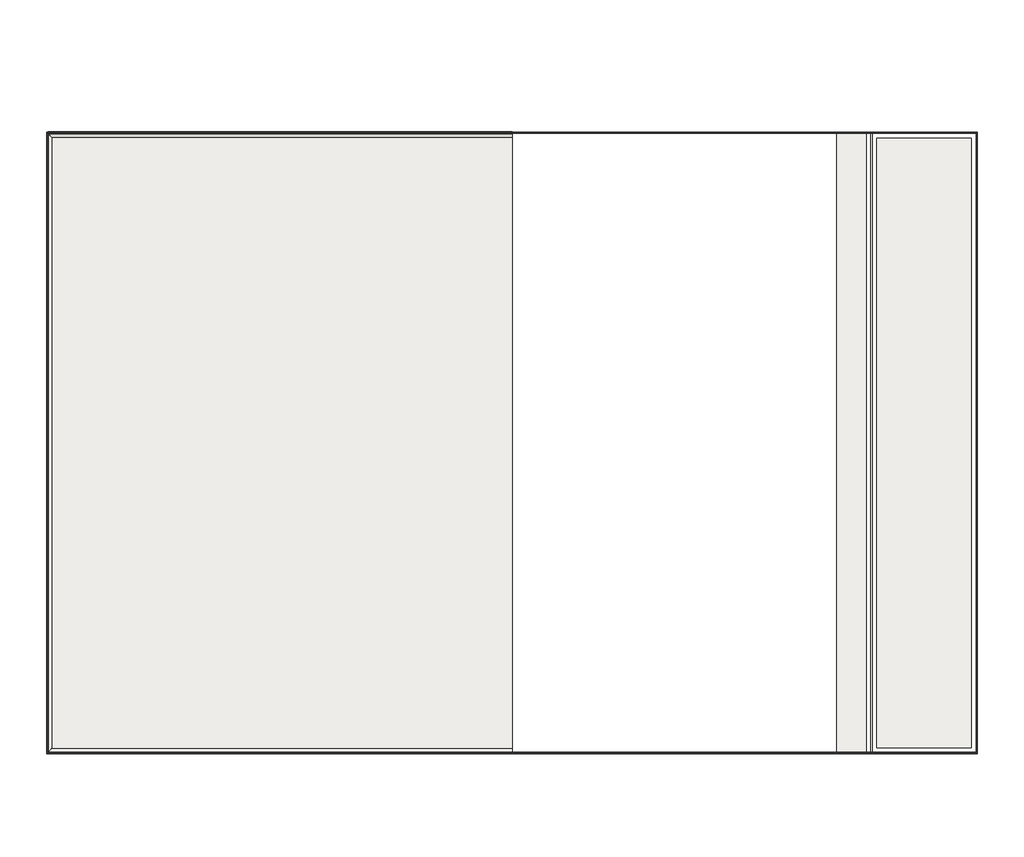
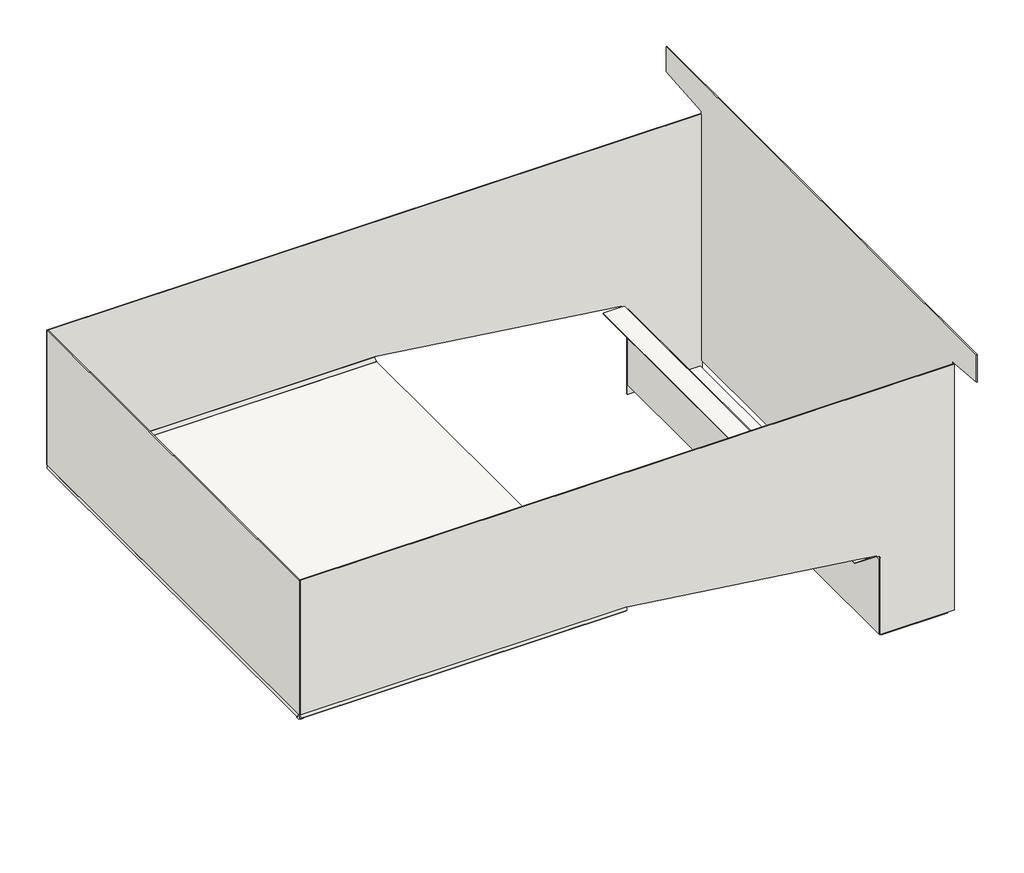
# One storey: 6 slabs, 5 walls.
"""IFC4 building model written with IfcOpenShell, lengths in millimetres."""

from ifc_helpers import new_model, si_unit, frame, origin, place, context, project, spatial, polyline, circle_curve, outline, extrude, faceted_brep, transform, mapped, element, save
from ifc_brep_helpers import plane_surface, revolved_surface, advanced_brep
from components import slab_60bb6a4b, slab_95e0f922, slab_4dad34ea

model = new_model("IFC4")

# Units and contexts
model_context = context("Model", 3, world=origin())
ifc_project = project(units=[si_unit("LENGTHUNIT", "METRE", prefix="MILLI")], contexts=[model_context])

# Site, building, storey
site = spatial("IfcSite", under=ifc_project)
building = spatial("IfcBuilding", under=site)
storey = spatial("IfcBuildingStorey", under=building, Name="3_NFondo1P1 -1.50", Elevation=-1500.0)

# Slabs
placement = place(None, origin())
element("IfcSlab", 1, ObjectType="Pieza 316_Patrón 1/3_Tresor_Bali_Anti-Slip", at=placement, inside=storey, context=model_context, shape_type="SweptSolid", body=[
    extrude(outline(polyline([(6831.57313, 12150.1824974), (6831.57313, 8150.4324974), (3831.69813, 8150.4324974), (3831.69813, 12150.1824974), (6831.57313, 12150.1824974)])), frame((0.0, 0.0, -1409.0), z_axis=(0.0, 0.0, 1.0), x_axis=(1.0, 0.0, 0.0)), (0.0, 0.0, 1.0), 9.0),
])
element("IfcSlab", 2, ObjectType="Pieza 316_Patrón 1/3_Tresor_Bali_Anti-Slip", at=placement, inside=storey, context=model_context, shape_type="SweptSolid", body=[
    extrude(outline(polyline([(9120.69813, 12150.1824974), (9120.69813, 8150.4324974), (8931.57313, 8150.4324974), (8931.57313, 12150.1824974), (9120.69813, 12150.1824974)])), frame((0.0, 0.0, -1689.0), z_axis=(0.0, 0.0, 1.0), x_axis=(1.0, 0.0, 0.0)), (0.0, 0.0, 1.0), 9.0),
])
element("IfcSlab", 3, ObjectType="Pieza 316_Patrón 1/3_Tresor_Bali_Anti-Slip", at=placement, inside=storey, context=model_context, shape_type="SweptSolid", body=[
    extrude(outline(polyline([(9801.44813, 12120.1559088), (9801.44813, 8180.4324974), (9190.7247186, 8180.4324974), (9190.7247186, 12120.1559088), (9801.44813, 12120.1559088)])), frame((0.0, 0.0, -2489.0), z_axis=(0.0, 0.0, 1.0), x_axis=(1.0, 0.0, 0.0)), (0.0, 0.0, 1.0), 9.0),
])
slab_shape = slab_60bb6a4b(model_context)
element("IfcSlab", 4, ObjectType="ROSA GRES_188 : Pieza 188_Tresor_Bali_Anti-Slip", at=placement, inside=storey, context=model_context, shape_type="MappedRepresentation", body=[
    mapped(slab_shape, transform((3831.69813, 12160.1559088, -1409.9734114), x_axis=(1.0, 0.0, 0.0), y_axis=(0.0, 0.0, 1.0), z_axis=(0.0, -1.0, 0.0))),
])
slab_2_shape = slab_95e0f922(model_context)
element("IfcSlab", 5, ObjectType="ROSA GRES_188 : Pieza 188_Tresor_Bali_Anti-Slip", at=placement, inside=storey, context=model_context, shape_type="MappedRepresentation", body=[
    mapped(slab_2_shape, transform((3821.7247186, 12150.1824974, -1409.9734114), x_axis=(0.0, -1.0, 0.0), y_axis=(1.0, 0.0, 0.0), z_axis=(0.0, 0.0, 1.0))),
])
slab_3_shape = slab_4dad34ea(model_context)
element("IfcSlab", 6, ObjectType="ROSA GRES_188 : Pieza 188_Tresor_Bali_Anti-Slip", at=placement, inside=storey, context=model_context, shape_type="MappedRepresentation", body=[
    mapped(slab_3_shape, transform((3821.7247186, 8140.4590859, -1409.9734114), x_axis=(1.0, 0.0, 0.0), y_axis=(0.0, 1.0, 0.0), z_axis=(0.0, 0.0, 1.0))),
])

# Walls
element("IfcWall", 7, ObjectType="Pieza 316_Patrón 1/3_Tresor_Bali_Anti-Slip", at=placement, inside=storey, context=model_context, shape_type="Brep", body=[
    faceted_brep([(3822.69813, 12150.1824974, -1369.9734114), (6833.566084, 12150.1824974, -1369.9734114), (9099.8262276, 12150.1824974, -1672.1414306), (9151.69813, 12150.1824974, -1738.534438), (9151.69813, 12150.1824974, -2449.9734114), (9151.69813, 12150.1824974, -2546.2354402), (9840.44813, 12150.1824974, -2546.2354402), (9840.44813, 12150.1824974, -2449.9734114), (9840.44813, 12150.1824974, -61.5045114), (3831.69813, 12150.1824974, -61.5045114), (3822.69813, 12150.1824974, -61.5045114), (3822.69813, 12159.1824974, -1369.9734114), (3822.69813, 12159.1824974, -61.5045114), (9840.44813, 12159.1824974, -61.5045114), (9840.44813, 12159.1824974, -2546.2354402), (9151.69813, 12159.1824974, -2546.2354402), (9151.69813, 12159.1824974, -1738.534438), (9099.8262276, 12159.1824974, -1672.1414306), (6833.566084, 12159.1824974, -1369.9734114)], [[[0, 1, 2, 3, 4, 5, 6, 7, 8, 9, 10]], [[11, 12, 13, 14, 15, 16, 17, 18]], [[0, 10, 12, 11]], [[10, 9, 8, 13, 12]], [[1, 0, 11, 18]], [[2, 1, 18, 17]], [[6, 5, 15, 14]], [[5, 4, 3, 16, 15]], [[3, 2, 17, 16]], [[8, 7, 6, 14, 13]]]),
])
element("IfcWall", 8, ObjectType="Pieza 316_Patrón 1/3_Tresor_Bali_Anti-Slip", at=placement, inside=storey, context=model_context, shape_type="Brep", body=[
    faceted_brep([(3831.69813, 8141.4324974, -1373.318761), (3831.69813, 12150.1824974, -1373.318761), (3831.69813, 12150.1824974, -61.5045114), (3831.69813, 8150.4324974, -61.5045114), (3831.69813, 8141.4324974, -61.5045114), (3831.69813, 8141.4324974, -1369.9734114), (3822.69813, 8141.4324974, -1373.318761), (3822.69813, 8141.4324974, -61.5045114), (3822.69813, 12150.1824974, -61.5045114), (3822.69813, 12150.1824974, -1369.9734114), (3822.69813, 12150.1824974, -1373.318761)], [[[0, 1, 2, 3, 4, 5]], [[6, 7, 8, 9, 10]], [[1, 0, 6, 10]], [[4, 3, 2, 8, 7]], [[2, 1, 10, 9, 8]], [[0, 5, 4, 7, 6]]]),
])
element("IfcWall", 9, ObjectType="Pieza 316_Patrón 1/3_Tresor_Bali_Anti-Slip", at=placement, inside=storey, context=model_context, shape_type="AdvancedBrep", body=[
    advanced_brep(
    [(9840.44813, 8150.4324974, -2449.9734114), (9831.44813, 8150.4324974, -2449.9734114), (9160.69813, 8150.4324974, -2449.9734114), (9160.69813, 8150.4324974, -1720.0), (9119.6365458, 8150.4324974, -1680.0140895), (9120.3218667, 8150.4324974, -1674.8741825), (8933.1519861, 8150.4324974, -1649.9181984), (6833.566084, 8150.4324974, -1369.9734114), (3831.69813, 8150.4324974, -1369.9734114), (3831.69813, 8150.4324974, -61.5045114), (9840.44813, 8150.4324974, -61.5045114), (9840.44813, 8141.4324974, -2449.9734114), (9840.44813, 8141.4324974, -61.5045114), (3831.69813, 8141.4324974, -61.5045114), (3831.69813, 8141.4324974, -1369.9734114), (6833.566084, 8141.4324974, -1369.9734114), (8933.1519861, 8141.4324974, -1649.9181984), (9120.3218667, 8141.4324974, -1674.8741825), (9119.6365458, 8141.4324974, -1680.0140895), (9160.69813, 8141.4324974, -1720.0), (9160.69813, 8141.4324974, -2449.9734114)],
    [
        (0, 1),
        (1, 2),
        (2, 3),
        (3, 4, circle_curve(frame((9120.69813, 8150.4324974, -1720.0), z_axis=(0.0, -1.0, 0.0), x_axis=(1.0, 0.0, 0.0)), 40.0)),
        (4, 5),
        (5, 6),
        (6, 7),
        (7, 8),
        (8, 9),
        (9, 10),
        (10, 0),
        (11, 12),
        (12, 13),
        (13, 14),
        (14, 15),
        (15, 16),
        (16, 17),
        (17, 18),
        (18, 19, circle_curve(frame((9120.69813, 8141.4324974, -1720.0), z_axis=(0.0, 1.0, 0.0), x_axis=(1.0, 0.0, 0.0)), 40.0)),
        (19, 20),
        (20, 11),
        (8, 14),
        (13, 9),
        (12, 10),
        (0, 11),
        (20, 2),
        (5, 17),
        (16, 6),
        (15, 7),
        (19, 3),
        (18, 4),
    ],
    [
        plane_surface(frame((9835.94813, 8150.4324974, -2449.9734114), z_axis=(0.0, 1.0, 0.0), x_axis=(-1.0, 0.0, 0.0))),
        plane_surface(frame((9835.94813, 8141.4324974, -2449.9734114), z_axis=(0.0, -1.0, 0.0), x_axis=(1.0, 0.0, 0.0))),
        plane_surface(frame((3831.69813, 8150.3074974, -1373.318761), z_axis=(-1.0, 0.0, 0.0), x_axis=(0.0, 1.0, 0.0))),
        plane_surface(frame((3827.19813, 8150.4324974, -61.5045114), z_axis=(0.0, 0.0, 1.0), x_axis=(0.0, -1.0, 0.0))),
        plane_surface(frame((9835.94813, 8150.4324974, -2449.9734114), z_axis=(0.0, 0.0, -1.0), x_axis=(0.0, -1.0, 0.0))),
        plane_surface(frame((9120.3218667, 8150.4324974, -1674.8741825), z_axis=(-0.13216372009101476, 0.0, -0.9912279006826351), x_axis=(0.0, -1.0, 0.0))),
        plane_surface(frame((8933.1519861, 8150.4324974, -1649.9181984), z_axis=(-0.13216372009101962, 0.0, -0.9912279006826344), x_axis=(0.0, -1.0, 0.0))),
        plane_surface(frame((6833.566084, 8150.4324974, -1369.9734114), z_axis=(0.0, 0.0, -1.0), x_axis=(0.0, -1.0, 0.0))),
        plane_surface(frame((9160.69813, 12154.6824974, -2449.9734114), z_axis=(-1.0, 0.0, 0.0), x_axis=(0.0, 1.0, 0.0))),
        revolved_surface(polyline([(9160.69813, 8141.4324974, -1720.0), (9160.69813, 8150.4324974, -1720.0)]), (9120.69813, 8141.4324974, -1720.0), (0.0, -1.0, 0.0)),
        plane_surface(frame((9119.6365458, 8150.4324974, -1680.0140895), z_axis=(-0.9912279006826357, 0.0, 0.13216372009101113), x_axis=(0.0, -1.0, 0.0))),
        plane_surface(frame((9840.44813, 12154.6824974, -2449.9734114), z_axis=(1.0, 0.0, 0.0), x_axis=(0.0, 1.0, 0.0))),
    ],
    [
        (0, [[1, 2, 3, 4, 5, 6, 7, 8, 9, 10, 11]]),
        (1, [[12, 13, 14, 15, 16, 17, 18, 19, 20, 21]]),
        (2, [[-9, 22, -14, 23]]),
        (3, [[-10, -23, -13, 24]]),
        (4, [[-2, -1, 25, -21, 26]]),
        (5, [[-6, 27, -17, 28]]),
        (6, [[-7, -28, -16, 29]]),
        (7, [[-8, -29, -15, -22]]),
        (8, [[-3, -26, -20, 30]]),
        (9, [[-4, -30, -19, 31]]),
        (10, [[-5, -31, -18, -27]]),
        (11, [[-11, -24, -12, -25]]),
    ],
),
])
element("IfcWall", 10, ObjectType="Pieza 316_Patrón 1/3_Tresor_Bali_Anti-Slip", at=placement, inside=storey, context=model_context, shape_type="Brep", body=[
    faceted_brep([(9831.44813, 12150.1824974, -2449.9734114), (9831.44813, 8150.4324974, -2449.9734114), (9831.44813, 8150.4324974, -44.3740379), (9831.44813, 7775.3074974, -13.8406077), (9831.44813, 7775.3074974, 250.0265886), (9831.44813, 12712.3234249, 250.0265886), (9831.44813, 12712.3234249, 9.6796306), (9831.44813, 12150.1824974, -36.0760263), (9840.44813, 12150.1824974, -2449.9734114), (9840.44813, 12150.1824974, -61.5045114), (9840.44813, 12150.1824974, -36.0760263), (9840.44813, 12712.3234249, 9.6796306), (9840.44813, 12712.3234249, 250.0265886), (9840.44813, 7775.3074974, 250.0265886), (9840.44813, 7775.3074974, -13.8406077), (9840.44813, 8150.4324974, -44.3740379), (9840.44813, 8150.4324974, -61.5045114), (9840.44813, 8150.4324974, -2449.9734114)], [[[0, 1, 2, 3, 4, 5, 6, 7]], [[8, 9, 10, 11, 12, 13, 14, 15, 16, 17]], [[1, 0, 8, 17]], [[5, 4, 13, 12]], [[3, 2, 15, 14]], [[4, 3, 14, 13]], [[6, 5, 12, 11]], [[7, 6, 11, 10]], [[0, 7, 10, 9, 8]], [[2, 1, 17, 16, 15]]]),
])
element("IfcWall", 11, ObjectType="Pieza 316_Patrón 1/3_Tresor_Bali_Anti-Slip", at=placement, inside=storey, context=model_context, shape_type="Brep", body=[
    faceted_brep([(9151.69813, 12150.1824974, -1720.0), (9151.69813, 12150.1824974, -1738.534438), (9151.69813, 12150.1824974, -2449.9734114), (9151.69813, 8141.4324974, -2449.9734114), (9151.69813, 8141.4324974, -1720.0), (9160.69813, 12150.1824974, -2449.9734114), (9160.69813, 12150.1824974, -1720.0), (9160.69813, 8141.4324974, -1720.0), (9160.69813, 8141.4324974, -2449.9734114), (9160.69813, 8150.4324974, -2449.9734114)], [[[0, 1, 2, 3, 4]], [[5, 6, 7, 8, 9]], [[0, 6, 5, 2, 1]], [[4, 3, 8, 7]], [[3, 2, 5, 9, 8]], [[0, 4, 7, 6]]]),
])

save(model, "model.ifc")
